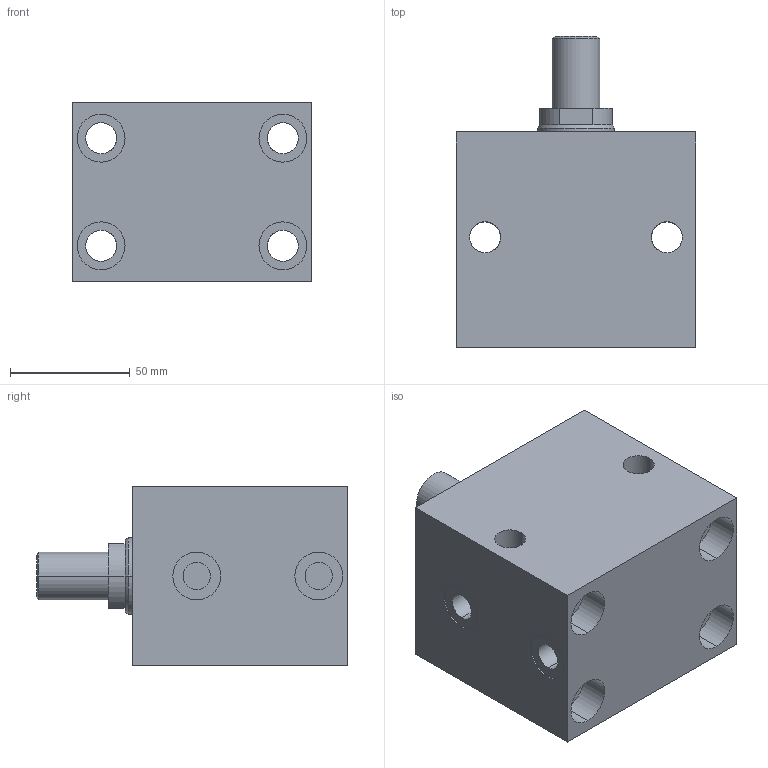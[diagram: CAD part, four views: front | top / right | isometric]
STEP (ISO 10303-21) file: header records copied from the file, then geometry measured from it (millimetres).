
FILE_DESCRIPTION (( 'STEP AP203' ), '1' );
FILE_NAME ('GERMA_Blockzylinder_600-050-025-A.STEP', '2015-08-22T18:29:10', ( '' ), ( '' ), 'SwSTEP 2.0', 'SolidWorks 2015', '' );
FILE_SCHEMA (( 'CONFIG_CONTROL_DESIGN' ));
Length unit declared in the file: millimetre
Products named in the file (3): GH-600-050_GH-600-050-025; Kolben 60x-050_Kolben DU.50-Hub25-AG; GERMA_Blockzylinder_600-050-025-A
Assembly tree (2 placements, depth 2):
  GERMA_Blockzylinder_600-050-025-A
    GH-600-050_GH-600-050-025
    Kolben 60x-050_Kolben DU.50-Hub25-AG
Bounding box: 100 x 130 x 75 mm (x, y, z)
Volume: 578861.8 mm3; surface area: 95222.6 mm2
Topology: 2 solids, 2 shells, 113 faces, 258 edges, 157 vertices
Faces by surface type: cylinder 71, plane 30, cone 12
Entity records: 3498 total; most frequent: CARTESIAN_POINT 625, DIRECTION 579, ORIENTED_EDGE 508, EDGE_CURVE 254, AXIS2_PLACEMENT_3D 239, VERTEX_POINT 157, EDGE_LOOP 145, CIRCLE 121
